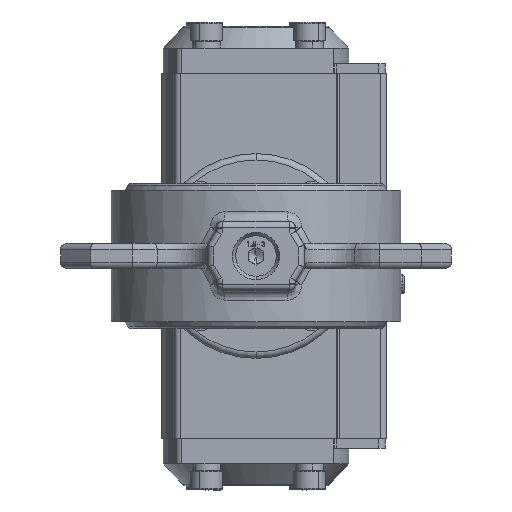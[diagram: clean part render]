
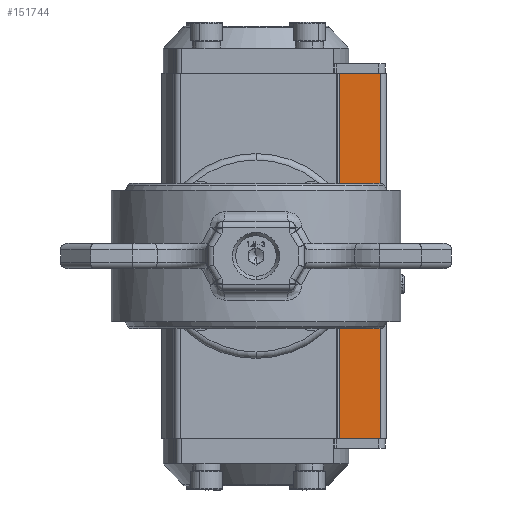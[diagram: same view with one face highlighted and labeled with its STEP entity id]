
A CAD part, front view. The second image highlights one B-rep face of the part: STEP entity #151744.
In plain terms, the highlighted planar face has unit normal (0, -1, 0).
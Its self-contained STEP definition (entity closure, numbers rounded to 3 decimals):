
#4818 = CARTESIAN_POINT ( 'NONE',  ( 26., 160.7, -58. ) ) ;
#4833 = FACE_OUTER_BOUND ( 'NONE', #13698, .T. ) ;
#4837 = PLANE ( 'NONE',  #178143 ) ;
#4848 = DIRECTION ( 'NONE',  ( 0., -1., 0. ) ) ;
#4852 = DIRECTION ( 'NONE',  ( 0., 0., -1. ) ) ;
#12204 = VECTOR ( 'NONE', #146426, 1000. ) ;
#12263 = VECTOR ( 'NONE', #146390, 1000. ) ;
#12529 = VECTOR ( 'NONE', #144940, 1000. ) ;
#13445 = VECTOR ( 'NONE', #146408, 1000. ) ;
#13698 = EDGE_LOOP ( 'NONE', ( #163567, #163571, #163575, #163579 ) ) ;
#51184 = EDGE_CURVE ( 'NONE', #98535, #98538, #144919, .T. ) ;
#51305 = EDGE_CURVE ( 'NONE', #98535, #98669, #146386, .T. ) ;
#51308 = EDGE_CURVE ( 'NONE', #98669, #98672, #146400, .T. ) ;
#51310 = EDGE_CURVE ( 'NONE', #98538, #98672, #146422, .T. ) ;
#98535 = VERTEX_POINT ( 'NONE', #199618 ) ;
#98538 = VERTEX_POINT ( 'NONE', #199622 ) ;
#98669 = VERTEX_POINT ( 'NONE', #199781 ) ;
#98672 = VERTEX_POINT ( 'NONE', #199783 ) ;
#144916 = CARTESIAN_POINT ( 'NONE',  ( 0., 160.7, 58. ) ) ;
#144919 = LINE ( 'NONE', #144916, #12529 ) ;
#144940 = DIRECTION ( 'NONE',  ( 1., 0., 0. ) ) ;
#146382 = CARTESIAN_POINT ( 'NONE',  ( 0., 160.7, -58. ) ) ;
#146386 = LINE ( 'NONE', #146388, #12263 ) ;
#146388 = CARTESIAN_POINT ( 'NONE',  ( 26.5, 160.7, -58. ) ) ;
#146390 = DIRECTION ( 'NONE',  ( 0., 0., -1. ) ) ;
#146400 = LINE ( 'NONE', #146382, #13445 ) ;
#146408 = DIRECTION ( 'NONE',  ( 1., 0., 0. ) ) ;
#146422 = LINE ( 'NONE', #146424, #12204 ) ;
#146424 = CARTESIAN_POINT ( 'NONE',  ( 39.5, 160.7, 209.218 ) ) ;
#146426 = DIRECTION ( 'NONE',  ( 0., 0., -1. ) ) ;
#151744 = ADVANCED_FACE ( 'NONE', ( #4833 ), #4837, .T. ) ;
#163567 = ORIENTED_EDGE ( 'NONE', *, *, #51184, .F. ) ;
#163571 = ORIENTED_EDGE ( 'NONE', *, *, #51305, .T. ) ;
#163575 = ORIENTED_EDGE ( 'NONE', *, *, #51308, .T. ) ;
#163579 = ORIENTED_EDGE ( 'NONE', *, *, #51310, .F. ) ;
#178143 = AXIS2_PLACEMENT_3D ( 'NONE', #4818, #4848, #4852 ) ;
#199618 = CARTESIAN_POINT ( 'NONE',  ( 26.5, 160.7, 58. ) ) ;
#199622 = CARTESIAN_POINT ( 'NONE',  ( 39.5, 160.7, 58. ) ) ;
#199781 = CARTESIAN_POINT ( 'NONE',  ( 26.5, 160.7, -58. ) ) ;
#199783 = CARTESIAN_POINT ( 'NONE',  ( 39.5, 160.7, -58. ) ) ;
